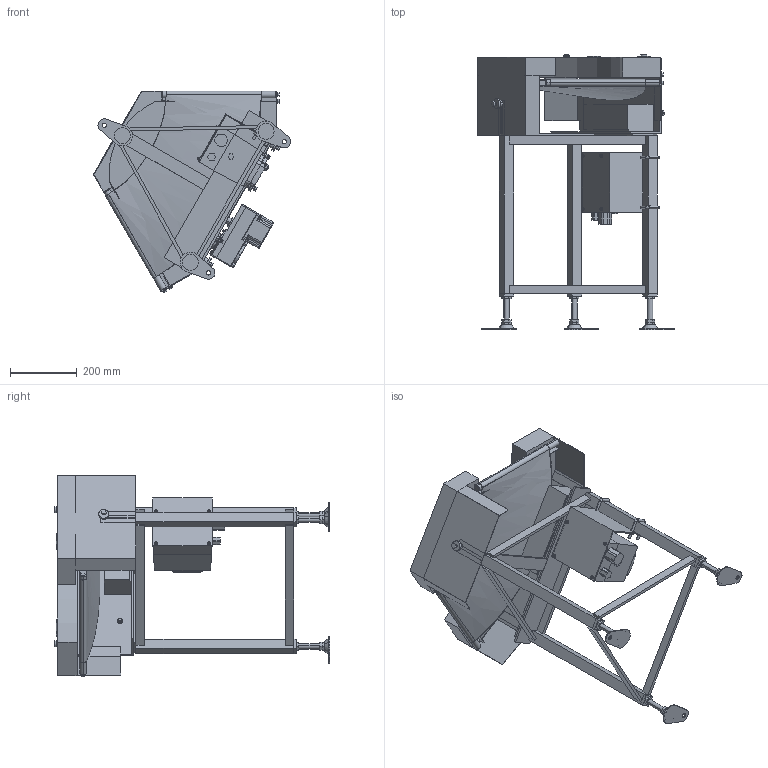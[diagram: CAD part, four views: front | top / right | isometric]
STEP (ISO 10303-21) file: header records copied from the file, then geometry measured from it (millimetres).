
FILE_DESCRIPTION (( 'STEP AP214' ), '1' );
FILE_NAME ('GFBC60-HS200-DC-L.STEP', '2024-01-18T02:11:01', ( '' ), ( '' ), 'SwSTEP 2.0', 'SolidWorks 2017', '' );
FILE_SCHEMA (( 'AUTOMOTIVE_DESIGN' ));
Length unit declared in the file: millimetre
Products named in the file (1): GFBC60-HS200-DC-L
Bounding box: 592.3 x 827.92 x 606.62 mm (x, y, z)
Volume: 17827584.9 mm3; surface area: 2976974.5 mm2
Topology: 65 solids, 66 shells, 1409 faces, 3289 edges, 2102 vertices
Faces by surface type: plane 866, cylinder 408, cone 73, bspline 38, torus 20, sphere 4
Entity records: 47584 total; most frequent: CARTESIAN_POINT 14347, DIRECTION 6786, ORIENTED_EDGE 6530, EDGE_CURVE 3265, AXIS2_PLACEMENT_3D 2346, VERTEX_POINT 2102, VECTOR 2094, LINE 2094
